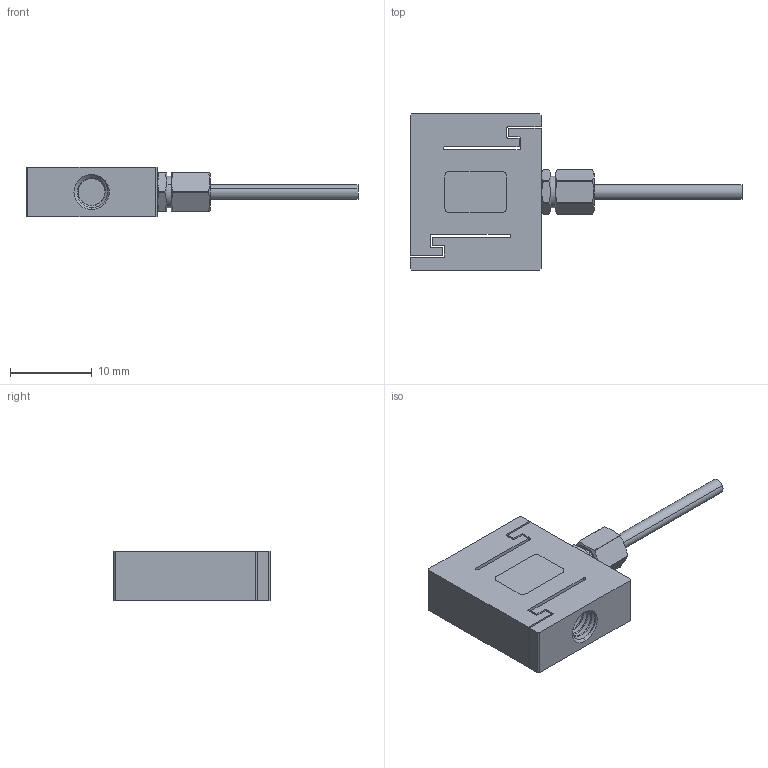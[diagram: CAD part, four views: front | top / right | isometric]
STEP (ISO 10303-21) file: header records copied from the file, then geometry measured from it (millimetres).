
FILE_DESCRIPTION (( 'STEP AP203' ), '1' );
FILE_NAME ('LCS03.STEP', '2025-10-17T13:18:11', ( '' ), ( '' ), 'SwSTEP 2.0', 'SolidWorks 2019', '' );
FILE_SCHEMA (( 'CONFIG_CONTROL_DESIGN' ));
Length unit declared in the file: millimetre
Products named in the file (1): LCS03
Bounding box: 40.5 x 19.1 x 6 mm (x, y, z)
Volume: 1827.7 mm3; surface area: 2162.8 mm2
Topology: 4 solids, 4 shells, 141 faces, 383 edges, 252 vertices
Faces by surface type: plane 62, cylinder 57, cone 16, bspline 6
Entity records: 8894 total; most frequent: CARTESIAN_POINT 5382, ORIENTED_EDGE 766, DIRECTION 657, EDGE_CURVE 383, VERTEX_POINT 252, AXIS2_PLACEMENT_3D 230, VECTOR 197, LINE 197
